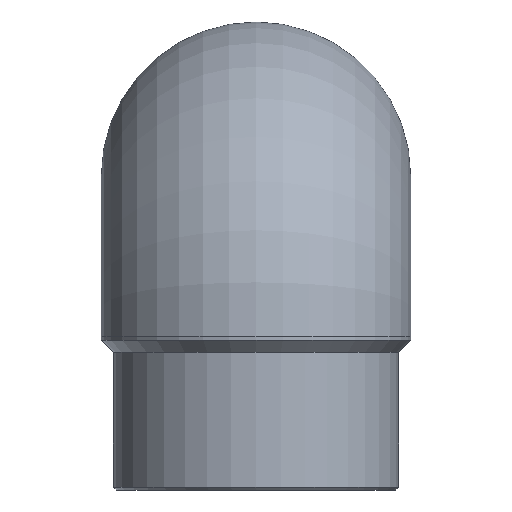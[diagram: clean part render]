
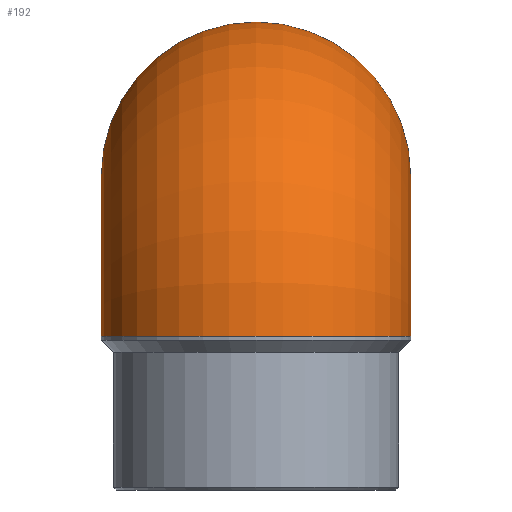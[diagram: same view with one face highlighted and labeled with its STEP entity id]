
A CAD part, left-side view. The second image highlights one B-rep face of the part: STEP entity #192.
In plain terms, the highlighted toroidal (fillet/blend) face has major radius 176 mm and minor radius 171 mm.
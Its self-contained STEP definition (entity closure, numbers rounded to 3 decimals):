
#21=TOROIDAL_SURFACE('',#232,176.,171.);
#65=ORIENTED_EDGE('',*,*,#77,.F.);
#66=ORIENTED_EDGE('',*,*,#79,.T.);
#77=EDGE_CURVE('',#96,#96,#114,.F.);
#79=EDGE_CURVE('',#98,#98,#116,.F.);
#96=VERTEX_POINT('',#312);
#98=VERTEX_POINT('',#318);
#114=CIRCLE('',#217,171.);
#116=CIRCLE('',#221,171.);
#143=EDGE_LOOP('',(#65));
#144=EDGE_LOOP('',(#66));
#170=FACE_BOUND('',#143,.T.);
#171=FACE_BOUND('',#144,.T.);
#192=ADVANCED_FACE('',(#170,#171),#21,.T.);
#217=AXIS2_PLACEMENT_3D('',#311,#256,#257);
#221=AXIS2_PLACEMENT_3D('',#317,#264,#265);
#232=AXIS2_PLACEMENT_3D('',#370,#286,#287);
#256=DIRECTION('',(-1.,0.,0.));
#257=DIRECTION('',(0.,0.,-1.));
#264=DIRECTION('',(0.,0.,-1.));
#265=DIRECTION('',(1.,0.,0.));
#286=DIRECTION('',(0.,1.,0.));
#287=DIRECTION('',(0.,0.,1.));
#311=CARTESIAN_POINT('',(176.,0.,346.));
#312=CARTESIAN_POINT('',(176.,0.,175.));
#317=CARTESIAN_POINT('',(0.,0.,170.));
#318=CARTESIAN_POINT('',(171.,0.,170.));
#370=CARTESIAN_POINT('',(176.,0.,170.));
